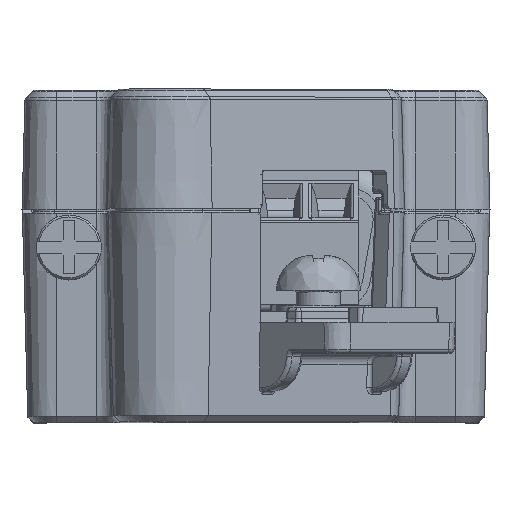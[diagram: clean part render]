
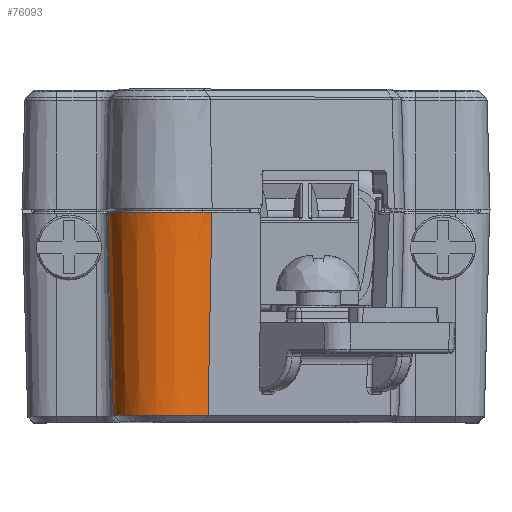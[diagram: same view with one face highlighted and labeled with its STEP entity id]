
A CAD part, top view. The second image highlights one B-rep face of the part: STEP entity #76093.
In plain terms, the highlighted conical face has half-angle 1.5 degrees and reference radius 3.886 mm.
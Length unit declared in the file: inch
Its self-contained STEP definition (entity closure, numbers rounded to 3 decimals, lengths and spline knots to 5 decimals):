
#11433=CARTESIAN_POINT('',(0.37725,-0.13479,2.43715));
#11434=DIRECTION('',(0.,1.,0.));
#11435=DIRECTION('',(-1.,0.,0.));
#11436=AXIS2_PLACEMENT_3D('',#11433,#11434,#11435);
#11438=DIRECTION('',(-0.026,1.,0.));
#11439=VECTOR('',#11438,0.53417);
#11440=CARTESIAN_POINT('',(0.23123,-0.13479,
2.43715));
#11441=LINE('',#11440,#11439);
#11442=CARTESIAN_POINT('',(0.37725,0.39919,2.43715));
#11443=DIRECTION('',(0.,1.,0.));
#11444=DIRECTION('',(-1.,0.,0.));
#11445=AXIS2_PLACEMENT_3D('',#11442,#11443,#11444);
#11475=DIRECTION('',(0.019,1.,0.019));
#11476=VECTOR('',#11475,0.53417);
#11477=CARTESIAN_POINT('',(0.4805,-0.13479,
2.5404));
#11478=LINE('',#11477,#11476);
#51898=CARTESIAN_POINT('',(0.21725,0.39919,2.43715));
#51900=VERTEX_POINT('',#51898);
#51901=CARTESIAN_POINT('',(0.49038,0.39919,
2.55029));
#51902=VERTEX_POINT('',#51901);
#51927=CARTESIAN_POINT('',(0.4805,-0.13479,
2.5404));
#51928=VERTEX_POINT('',#51927);
#51929=CARTESIAN_POINT('',(0.23123,-0.13479,
2.43715));
#51930=VERTEX_POINT('',#51929);
#76080=CARTESIAN_POINT('',(0.37725,0.1322,2.43715));
#76081=DIRECTION('',(0.,1.,0.));
#76082=DIRECTION('',(-1.,0.,0.));
#76083=AXIS2_PLACEMENT_3D('',#76080,#76081,#76082);
#76084=CONICAL_SURFACE('',#76083,0.15301,1.5);
#76086=ORIENTED_EDGE('',*,*,#76085,.F.);
#76087=ORIENTED_EDGE('',*,*,#76075,.T.);
#76088=ORIENTED_EDGE('',*,*,#75100,.T.);
#76090=ORIENTED_EDGE('',*,*,#76089,.F.);
#76091=EDGE_LOOP('',(#76086,#76087,#76088,#76090));
#76092=FACE_OUTER_BOUND('',#76091,.F.);
#76093=ADVANCED_FACE('',(#76092),#76084,.T.);
#11437=CIRCLE('',#11436,0.14602);
#11446=CIRCLE('',#11445,0.16);
#75100=EDGE_CURVE('',#51900,#51902,#11446,.T.);
#76075=EDGE_CURVE('',#51930,#51900,#11441,.T.);
#76085=EDGE_CURVE('',#51930,#51928,#11437,.T.);
#76089=EDGE_CURVE('',#51928,#51902,#11478,.T.);
